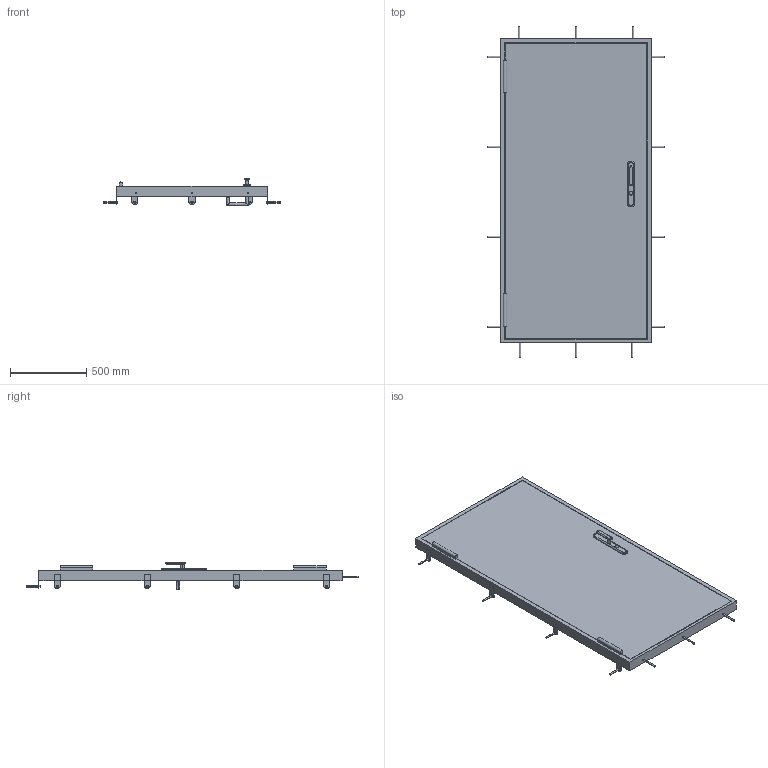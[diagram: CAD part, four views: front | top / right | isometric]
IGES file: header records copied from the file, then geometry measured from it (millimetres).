
Start section:  PTC IGES file: 51810624.igs
Global section: file name: 51810624.igs; native system: Creo Parametric by PTC Inc.; preprocessor: 2021304; author: ka; organization: Unknown; date: 20220510.073614; units: millimetre
Bounding box: 1160 x 2182 x 181.5 mm (x, y, z)
Surface area: 4816295.5 mm2 (no closed solid volume)
Topology: 0 solids, 0 shells, 256 faces, 1192 edges, 1192 vertices
Faces by surface type: bspline 137, revolution 119
